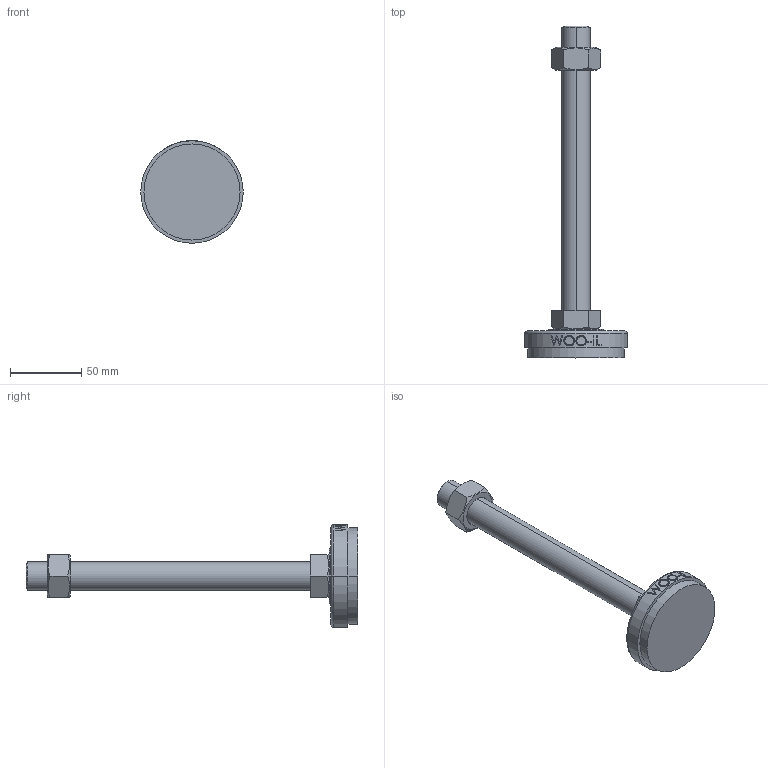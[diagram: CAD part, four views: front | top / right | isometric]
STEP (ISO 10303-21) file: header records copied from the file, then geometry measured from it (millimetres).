
FILE_DESCRIPTION (( 'STEP AP214' ), '1' );
FILE_NAME ('NS72-M20-200.step', '2021-01-11T05:48:39', ( '' ), ( '' ), 'SwSTEP 2.0', 'SolidWorks 2019', '' );
FILE_SCHEMA (( 'AUTOMOTIVE_DESIGN' ));
Length unit declared in the file: millimetre
Products named in the file (2): NS72-M20-200
Bounding box: 72 x 233 x 72 mm (x, y, z)
Volume: 154916 mm3; surface area: 31095.9 mm2
Topology: 3 solids, 3 shells, 96 faces, 227 edges, 148 vertices
Faces by surface type: plane 48, cylinder 18, bspline 16, cone 12, torus 2
Entity records: 4306 total; most frequent: CARTESIAN_POINT 2161, ORIENTED_EDGE 454, DIRECTION 381, EDGE_CURVE 227, VERTEX_POINT 148, AXIS2_PLACEMENT_3D 142, EDGE_LOOP 109, VECTOR 97
